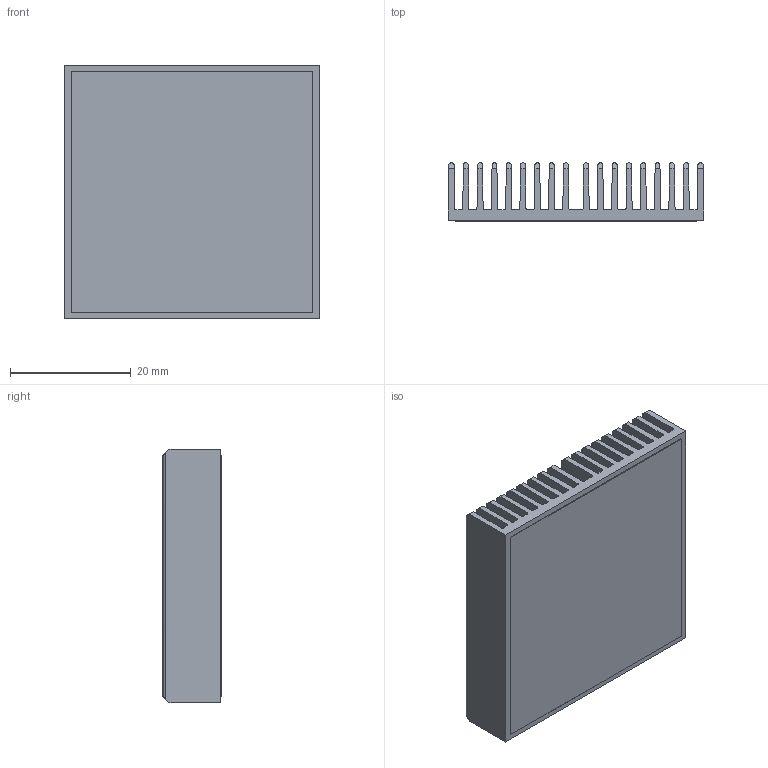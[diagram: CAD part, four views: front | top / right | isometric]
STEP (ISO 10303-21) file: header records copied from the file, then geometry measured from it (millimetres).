
FILE_DESCRIPTION (( 'STEP AP214' ), '1' );
FILE_NAME ('INL42.5001-10-1.7.STEP', '2023-03-01T18:22:59', ( '' ), ( '' ), 'SwSTEP 2.0', 'SolidWorks 2020', '' );
FILE_SCHEMA (( 'AUTOMOTIVE_DESIGN' ));
Length unit declared in the file: millimetre
Products named in the file (1): INL42.5001-10-1.7
Bounding box: 42.3 x 9.63 x 42 mm (x, y, z)
Volume: 8570.3 mm3; surface area: 18506.4 mm2
Topology: 2 solids, 2 shells, 150 faces, 438 edges, 292 vertices
Faces by surface type: plane 98, cylinder 52
Entity records: 6623 total; most frequent: CARTESIAN_POINT 989, ORIENTED_EDGE 876, DIRECTION 772, EDGE_CURVE 438, VECTOR 334, LINE 334, VERTEX_POINT 292, AXIS2_PLACEMENT_3D 219
